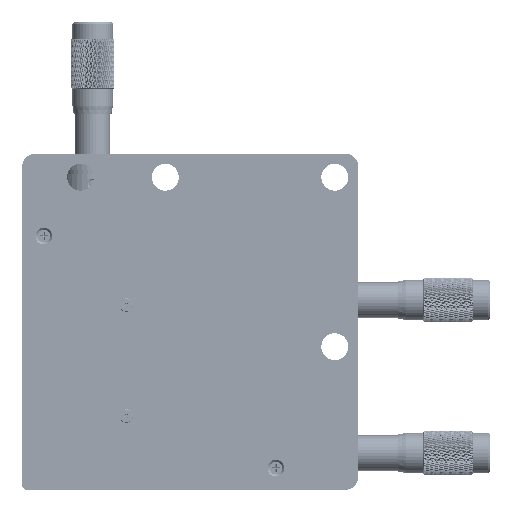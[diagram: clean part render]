
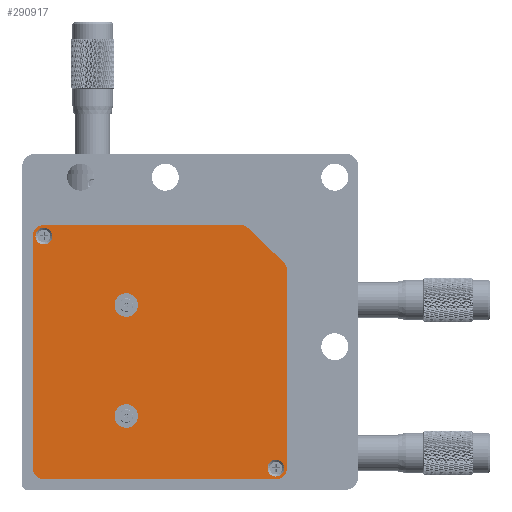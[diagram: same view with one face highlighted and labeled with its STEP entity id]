
A CAD part, front view. The second image highlights one B-rep face of the part: STEP entity #290917.
In plain terms, the highlighted planar face has unit normal (0, -1, 0) as drawn and (0, 1, 0) by its records, which use the part's own axes.
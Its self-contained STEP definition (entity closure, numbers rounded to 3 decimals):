
#290525=CARTESIAN_POINT('',(27.5,1.5,56.5));
#290526=DIRECTION('',(0.,-1.,0.));
#290527=DIRECTION('',(0.,0.,1.));
#290528=AXIS2_PLACEMENT_3D('',#290525,#290526,#290527);
#290530=CARTESIAN_POINT('',(27.5,1.5,56.5));
#290531=DIRECTION('',(0.,-1.,0.));
#290532=DIRECTION('',(0.,0.,-1.));
#290533=AXIS2_PLACEMENT_3D('',#290530,#290531,#290532);
#290535=CARTESIAN_POINT('',(27.5,1.5,23.5));
#290536=DIRECTION('',(0.,-1.,0.));
#290537=DIRECTION('',(0.,0.,1.));
#290538=AXIS2_PLACEMENT_3D('',#290535,#290536,#290537);
#290540=CARTESIAN_POINT('',(27.5,1.5,23.5));
#290541=DIRECTION('',(0.,-1.,0.));
#290542=DIRECTION('',(0.,0.,-1.));
#290543=AXIS2_PLACEMENT_3D('',#290540,#290541,#290542);
#290545=CARTESIAN_POINT('',(72.,1.5,13.167));
#290546=DIRECTION('',(0.,1.,0.));
#290547=DIRECTION('',(1.,0.,0.));
#290548=AXIS2_PLACEMENT_3D('',#290545,#290546,#290547);
#290550=CARTESIAN_POINT('',(72.,1.5,72.));
#290551=DIRECTION('',(0.,1.,0.));
#290552=DIRECTION('',(0.,0.,1.));
#290553=AXIS2_PLACEMENT_3D('',#290550,#290551,#290552);
#290555=CARTESIAN_POINT('',(3.,1.5,72.));
#290556=DIRECTION('',(0.,1.,0.));
#290557=DIRECTION('',(-1.,0.,0.));
#290558=AXIS2_PLACEMENT_3D('',#290555,#290556,#290557);
#290560=CARTESIAN_POINT('',(3.,1.5,3.));
#290561=DIRECTION('',(0.,1.,0.));
#290562=DIRECTION('',(0.,0.,-1.));
#290563=AXIS2_PLACEMENT_3D('',#290560,#290561,#290562);
#290565=CARTESIAN_POINT('',(61.437,1.5,3.));
#290566=DIRECTION('',(0.,1.,0.));
#290567=DIRECTION('',(0.693,0.,-0.72));
#290568=AXIS2_PLACEMENT_3D('',#290565,#290566,#290567);
#290570=DIRECTION('',(0.72,0.,0.693));
#290571=VECTOR('',#290570,14.662);
#290572=CARTESIAN_POINT('',(63.725,1.5,0.622));
#290573=LINE('',#290572,#290571);
#290574=CARTESIAN_POINT('',(72.,1.5,72.));
#290575=DIRECTION('',(0.,-1.,0.));
#290576=DIRECTION('',(1.,0.,0.));
#290577=AXIS2_PLACEMENT_3D('',#290574,#290575,#290576);
#290579=CARTESIAN_POINT('',(72.,1.5,72.));
#290580=DIRECTION('',(0.,-1.,0.));
#290581=DIRECTION('',(-1.,0.,0.));
#290582=AXIS2_PLACEMENT_3D('',#290579,#290580,#290581);
#290584=CARTESIAN_POINT('',(3.,1.5,3.));
#290585=DIRECTION('',(0.,-1.,0.));
#290586=DIRECTION('',(-1.,0.,0.));
#290587=AXIS2_PLACEMENT_3D('',#290584,#290585,#290586);
#290589=CARTESIAN_POINT('',(3.,1.5,3.));
#290590=DIRECTION('',(0.,-1.,0.));
#290591=DIRECTION('',(1.,0.,0.));
#290592=AXIS2_PLACEMENT_3D('',#290589,#290590,#290591);
#290618=DIRECTION('',(1.,0.,0.));
#290619=VECTOR('',#290618,58.437);
#290620=CARTESIAN_POINT('',(3.,1.5,-0.3));
#290621=LINE('',#290620,#290619);
#290626=DIRECTION('',(0.,0.,1.));
#290627=VECTOR('',#290626,58.833);
#290628=CARTESIAN_POINT('',(75.3,1.5,13.167));
#290629=LINE('',#290628,#290627);
#290638=DIRECTION('',(-1.,0.,0.));
#290639=VECTOR('',#290638,69.);
#290640=CARTESIAN_POINT('',(72.,1.5,75.3));
#290641=LINE('',#290640,#290639);
#290650=DIRECTION('',(0.,0.,-1.));
#290651=VECTOR('',#290650,69.);
#290652=CARTESIAN_POINT('',(-0.3,1.5,72.));
#290653=LINE('',#290652,#290651);
#290706=CARTESIAN_POINT('',(27.5,1.5,60.));
#290707=CARTESIAN_POINT('',(27.5,1.5,53.));
#290708=VERTEX_POINT('',#290706);
#290709=VERTEX_POINT('',#290707);
#290711=CARTESIAN_POINT('',(27.5,1.5,20.));
#290713=VERTEX_POINT('',#290711);
#290718=CARTESIAN_POINT('',(27.5,1.5,27.));
#290719=VERTEX_POINT('',#290718);
#290727=CARTESIAN_POINT('',(75.3,1.5,72.));
#290729=VERTEX_POINT('',#290727);
#290730=CARTESIAN_POINT('',(-0.3,1.5,72.));
#290732=VERTEX_POINT('',#290730);
#290734=CARTESIAN_POINT('',(-0.3,1.5,3.));
#290735=VERTEX_POINT('',#290734);
#290736=CARTESIAN_POINT('',(72.,1.5,75.3));
#290737=VERTEX_POINT('',#290736);
#290738=CARTESIAN_POINT('',(3.,1.5,75.3));
#290739=VERTEX_POINT('',#290738);
#290740=CARTESIAN_POINT('',(3.,1.5,-0.3));
#290741=VERTEX_POINT('',#290740);
#290746=CARTESIAN_POINT('',(75.3,1.5,13.167));
#290747=CARTESIAN_POINT('',(74.288,1.5,10.79));
#290748=VERTEX_POINT('',#290746);
#290749=VERTEX_POINT('',#290747);
#290758=CARTESIAN_POINT('',(63.725,1.5,0.622));
#290759=VERTEX_POINT('',#290758);
#290760=CARTESIAN_POINT('',(61.437,1.5,-0.3));
#290761=VERTEX_POINT('',#290760);
#290770=CARTESIAN_POINT('',(74.5,1.5,72.));
#290771=CARTESIAN_POINT('',(69.5,1.5,72.));
#290772=VERTEX_POINT('',#290770);
#290773=VERTEX_POINT('',#290771);
#290778=CARTESIAN_POINT('',(0.5,1.5,3.));
#290779=CARTESIAN_POINT('',(5.5,1.5,3.));
#290780=VERTEX_POINT('',#290778);
#290781=VERTEX_POINT('',#290779);
#290868=CARTESIAN_POINT('',(3.,1.5,3.));
#290869=DIRECTION('',(0.,-1.,0.));
#290870=DIRECTION('',(0.,0.,-1.));
#290871=AXIS2_PLACEMENT_3D('',#290868,#290869,#290870);
#290872=PLANE('',#290871);
#290874=ORIENTED_EDGE('',*,*,#290873,.F.);
#290876=ORIENTED_EDGE('',*,*,#290875,.T.);
#290878=ORIENTED_EDGE('',*,*,#290877,.F.);
#290880=ORIENTED_EDGE('',*,*,#290879,.T.);
#290882=ORIENTED_EDGE('',*,*,#290881,.F.);
#290884=ORIENTED_EDGE('',*,*,#290883,.T.);
#290885=ORIENTED_EDGE('',*,*,#290795,.F.);
#290887=ORIENTED_EDGE('',*,*,#290886,.T.);
#290889=ORIENTED_EDGE('',*,*,#290888,.F.);
#290891=ORIENTED_EDGE('',*,*,#290890,.T.);
#290892=EDGE_LOOP('',(#290874,#290876,#290878,#290880,#290882,#290884,#290885,
#290887,#290889,#290891));
#290893=FACE_OUTER_BOUND('',#290892,.F.);
#290894=ORIENTED_EDGE('',*,*,#290858,.F.);
#290896=ORIENTED_EDGE('',*,*,#290895,.F.);
#290897=EDGE_LOOP('',(#290894,#290896));
#290898=FACE_BOUND('',#290897,.F.);
#290900=ORIENTED_EDGE('',*,*,#290899,.F.);
#290902=ORIENTED_EDGE('',*,*,#290901,.F.);
#290903=EDGE_LOOP('',(#290900,#290902));
#290904=FACE_BOUND('',#290903,.F.);
#290906=ORIENTED_EDGE('',*,*,#290905,.F.);
#290908=ORIENTED_EDGE('',*,*,#290907,.F.);
#290909=EDGE_LOOP('',(#290906,#290908));
#290910=FACE_BOUND('',#290909,.F.);
#290912=ORIENTED_EDGE('',*,*,#290911,.F.);
#290914=ORIENTED_EDGE('',*,*,#290913,.F.);
#290915=EDGE_LOOP('',(#290912,#290914));
#290916=FACE_BOUND('',#290915,.F.);
#290917=ADVANCED_FACE('',(#290893,#290898,#290904,#290910,#290916),#290872,.F.);
#290529=CIRCLE('',#290528,3.5);
#290534=CIRCLE('',#290533,3.5);
#290539=CIRCLE('',#290538,3.5);
#290544=CIRCLE('',#290543,3.5);
#290549=CIRCLE('',#290548,3.3);
#290554=CIRCLE('',#290553,3.3);
#290559=CIRCLE('',#290558,3.3);
#290564=CIRCLE('',#290563,3.3);
#290569=CIRCLE('',#290568,3.3);
#290578=CIRCLE('',#290577,2.5);
#290583=CIRCLE('',#290582,2.5);
#290588=CIRCLE('',#290587,2.5);
#290593=CIRCLE('',#290592,2.5);
#290795=EDGE_CURVE('',#290741,#290735,#290564,.T.);
#290858=EDGE_CURVE('',#290719,#290713,#290539,.T.);
#290873=EDGE_CURVE('',#290748,#290749,#290549,.T.);
#290875=EDGE_CURVE('',#290748,#290729,#290629,.T.);
#290877=EDGE_CURVE('',#290737,#290729,#290554,.T.);
#290879=EDGE_CURVE('',#290737,#290739,#290641,.T.);
#290881=EDGE_CURVE('',#290732,#290739,#290559,.T.);
#290883=EDGE_CURVE('',#290732,#290735,#290653,.T.);
#290886=EDGE_CURVE('',#290741,#290761,#290621,.T.);
#290888=EDGE_CURVE('',#290759,#290761,#290569,.T.);
#290890=EDGE_CURVE('',#290759,#290749,#290573,.T.);
#290895=EDGE_CURVE('',#290713,#290719,#290544,.T.);
#290899=EDGE_CURVE('',#290708,#290709,#290529,.T.);
#290901=EDGE_CURVE('',#290709,#290708,#290534,.T.);
#290905=EDGE_CURVE('',#290772,#290773,#290578,.T.);
#290907=EDGE_CURVE('',#290773,#290772,#290583,.T.);
#290911=EDGE_CURVE('',#290780,#290781,#290588,.T.);
#290913=EDGE_CURVE('',#290781,#290780,#290593,.T.);
